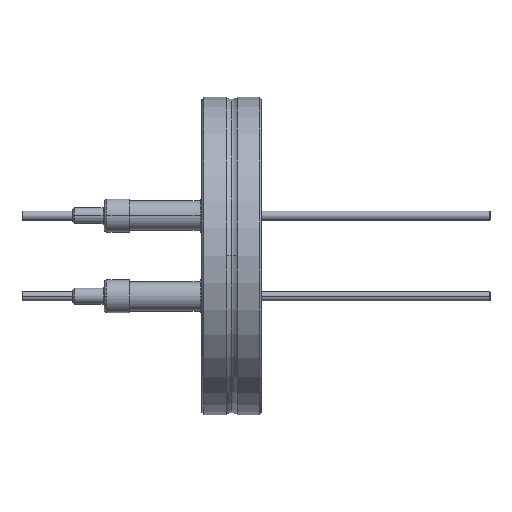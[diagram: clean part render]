
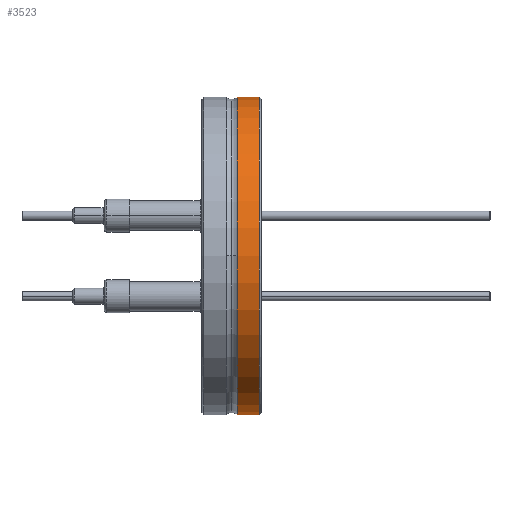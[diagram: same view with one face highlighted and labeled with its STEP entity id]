
A CAD part, top view. The second image highlights one B-rep face of the part: STEP entity #3523.
In plain terms, the highlighted cylindrical face has radius 34.75 mm (diameter 69.5 mm), a partial arc.
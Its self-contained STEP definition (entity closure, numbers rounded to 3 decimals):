
#3473=CARTESIAN_POINT('',(6.5,0.,0.0));
#3474=DIRECTION('',(1.0,0.,0.0));
#3475=DIRECTION('',(0.0,1.0,0.0));
#3476=AXIS2_PLACEMENT_3D('',#3473,#3474,#3475);
#3477=CYLINDRICAL_SURFACE('',#3476,34.75);
#3478=CARTESIAN_POINT('',(7.7,34.75,0.));
#3479=VERTEX_POINT('',#3478);
#3480=CARTESIAN_POINT('',(12.6,34.75,0.));
#3481=VERTEX_POINT('',#3480);
#3482=CARTESIAN_POINT('',(7.7,34.75,0.));
#3483=DIRECTION('',(1.0,0.0,0.0));
#3484=VECTOR('',#3483,4.9);
#3485=LINE('',#3482,#3484);
#3486=EDGE_CURVE('',#3479,#3481,#3485,.T.);
#3487=ORIENTED_EDGE('',*,*,#3486,.F.);
#3488=CARTESIAN_POINT('',(7.7,0.,34.75));
#3489=VERTEX_POINT('',#3488);
#3490=CARTESIAN_POINT('',(7.7,0.,0.0));
#3491=DIRECTION('',(1.0,0.0,0.0));
#3492=DIRECTION('',(0.0,1.0,0.0));
#3493=AXIS2_PLACEMENT_3D('',#3490,#3491,#3492);
#3494=CIRCLE('',#3493,34.75);
#3495=EDGE_CURVE('',#3479,#3489,#3494,.T.);
#3496=ORIENTED_EDGE('',*,*,#3495,.T.);
#3497=CARTESIAN_POINT('',(7.7,-34.75,0.));
#3498=VERTEX_POINT('',#3497);
#3499=CARTESIAN_POINT('',(7.7,0.,0.0));
#3500=DIRECTION('',(1.0,0.0,0.0));
#3501=DIRECTION('',(0.0,1.0,0.0));
#3502=AXIS2_PLACEMENT_3D('',#3499,#3500,#3501);
#3503=CIRCLE('',#3502,34.75);
#3504=EDGE_CURVE('',#3489,#3498,#3503,.T.);
#3505=ORIENTED_EDGE('',*,*,#3504,.T.);
#3506=CARTESIAN_POINT('',(12.6,-34.75,0.));
#3507=VERTEX_POINT('',#3506);
#3508=CARTESIAN_POINT('',(12.6,-34.75,0.));
#3509=DIRECTION('',(-1.0,0.0,0.0));
#3510=VECTOR('',#3509,4.9);
#3511=LINE('',#3508,#3510);
#3512=EDGE_CURVE('',#3507,#3498,#3511,.T.);
#3513=ORIENTED_EDGE('',*,*,#3512,.F.);
#3514=CARTESIAN_POINT('',(12.6,0.,0.0));
#3515=DIRECTION('',(1.0,0.0,0.0));
#3516=DIRECTION('',(0.0,-1.0,0.0));
#3517=AXIS2_PLACEMENT_3D('',#3514,#3515,#3516);
#3518=CIRCLE('',#3517,34.75);
#3519=EDGE_CURVE('',#3481,#3507,#3518,.T.);
#3520=ORIENTED_EDGE('',*,*,#3519,.F.);
#3521=EDGE_LOOP('',(#3487,#3496,#3505,#3513,#3520));
#3522=FACE_OUTER_BOUND('',#3521,.T.);
#3523=ADVANCED_FACE('',(#3522),#3477,.T.);
